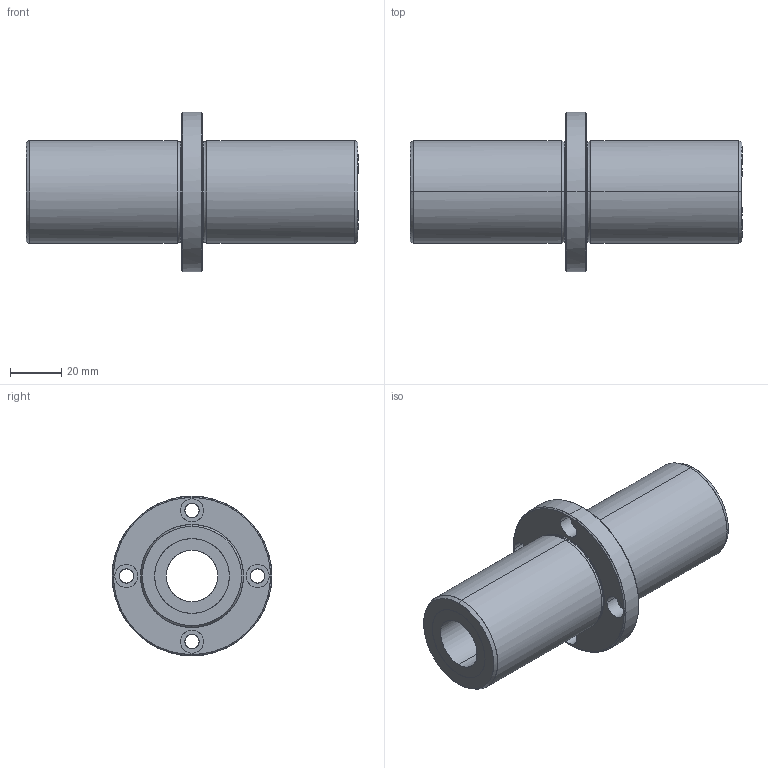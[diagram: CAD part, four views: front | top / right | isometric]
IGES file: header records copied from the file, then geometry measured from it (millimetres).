
Global section: file name: No Iges File Name specified; native system: AutoDesk Inventor R10; preprocessor: AutoDesk Inventor Iges Exporter R10; author: No Author specified; organization: No Organization specified; date: 20101216.172150; units: millimetre
Bounding box: 129 x 62 x 62 mm (x, y, z)
Surface area: 30752.8 mm2 (no closed solid volume)
Topology: 0 solids, 0 shells, 54 faces, 376 edges, 376 vertices
Faces by surface type: bspline 54
